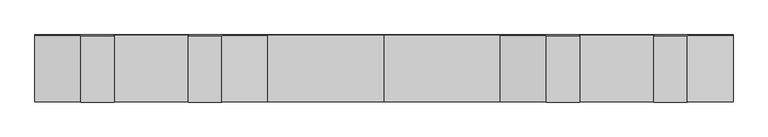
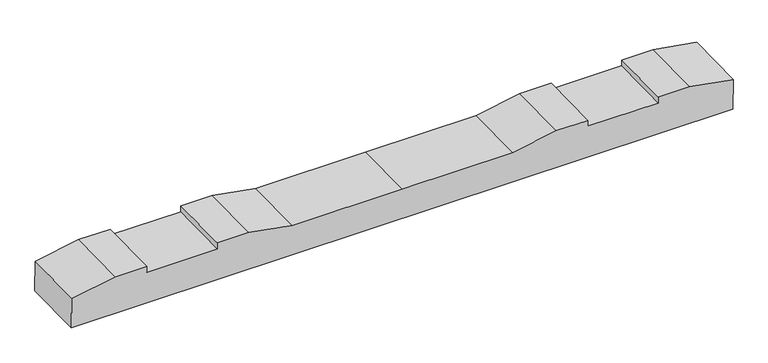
"""IFC4 building model written with IfcOpenShell, lengths in millimetres: proxy geometry, 轨枕-立面角度 : 轨枕-立面角度."""

from ifc_helpers import new_model, si_unit, frame, origin, place, context, project, spatial, polyline, outline, extrude, source, transform, mapped, element, save


def generic_models_0c4ac25e(model_context):
    return source(origin(), model_context, "Body", "SweptSolid", [
        extrude(outline(polyline([(0.0, 0.0), (2099.7669328, 0.0), (2099.7669328, -100.0206889), (1961.8834664, -124.5), (1861.8834664, -124.5), (1861.8834664, -104.5), (1637.8834664, -104.5), (1637.8834664, -124.5), (1537.8834664, -124.5), (1399.8834664, -100.0000001), (1049.8834664, -100.0000001), (699.8834664, -100.0000001), (561.8834664, -124.5), (461.8834664, -124.5), (461.8834664, -104.5), (237.8834664, -104.5), (237.8834664, -124.5), (137.8834664, -124.5), (0.0, -100.0206889), (0.0, 0.0)])), frame((-1049.8834664, -98.2774193, -106.121623), z_axis=(0.0, 0.9998662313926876, 0.01635601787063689), x_axis=(1.0, 0.0, 0.0)), (0.0, 0.0, 1.0), 200.0),
    ])


if __name__ == "__main__":
    model = new_model("IFC4")
    model_context = context("Model", 3, world=origin())
    ifc_project = project(units=[si_unit("LENGTHUNIT", "METRE", prefix="MILLI")], contexts=[model_context])
    site = spatial("IfcSite", under=ifc_project)
    building = spatial("IfcBuilding", under=site)
    placement = place(None, origin())
    generic_models_shape = generic_models_0c4ac25e(model_context)
    element("IfcBuildingElementProxy", 1, Name="轨枕-立面角度 : 轨枕-立面角度", ObjectType="轨枕-立面角度 : 轨枕-立面角度", at=placement, inside=building, context=model_context, shape_type="MappedRepresentation", body=[
        mapped(generic_models_shape, transform((0.0, 0.0, 0.0), x_axis=(1.0, 0.0, 0.0), y_axis=(0.0, 1.0, 0.0), z_axis=(0.0, 0.0, 1.0))),
    ])
    save(model, "model.ifc")
